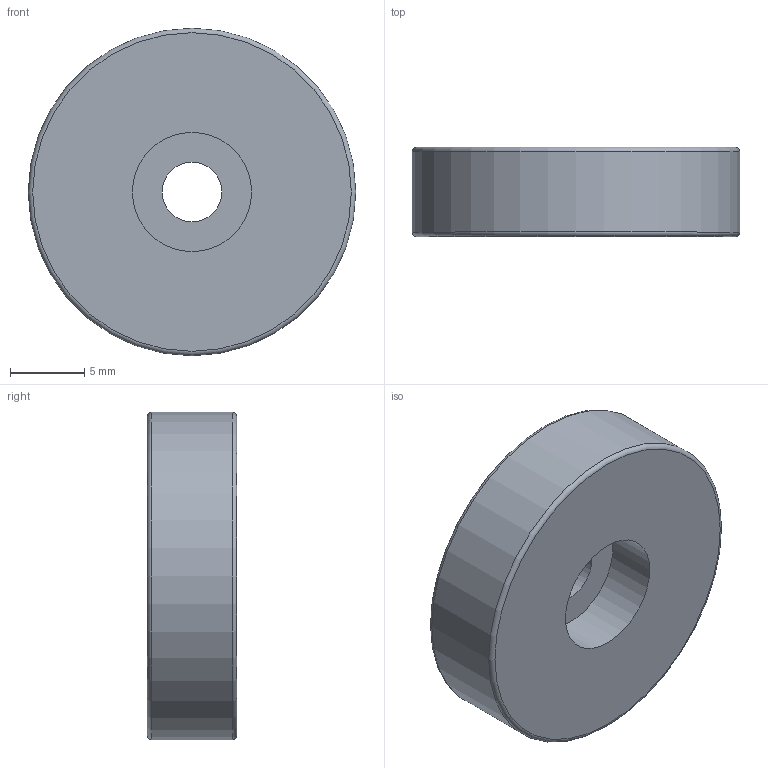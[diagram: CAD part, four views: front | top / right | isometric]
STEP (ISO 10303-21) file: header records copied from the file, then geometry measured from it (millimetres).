
FILE_DESCRIPTION( ( 'STEP AP203' ), '1' );
FILE_NAME( 'C:/Temp/Ganter_Step_05_03_2020/data/3_9/gn51_4/Retaining magnet GN 51.4-ND-22-SW.stp', '2020-03-10T07:42:01', ( 'License CC BY-ND 4.0' ), ( 'CADENAS' ), ' ', 'PARTsolutions', ' ' );
FILE_SCHEMA( ( 'CONFIG_CONTROL_DESIGN' ) );
Length unit declared in the file: millimetre
Products named in the file (1): _Retaining magnet GN 51.4-ND-22-SW
Bounding box: 22 x 6 x 22 mm (x, y, z)
Volume: 2033.1 mm3; surface area: 1263.9 mm2
Topology: 1 solids, 1 shells, 10 faces, 16 edges, 10 vertices
Faces by surface type: plane 4, cylinder 4, torus 2
Full cylindrical faces by diameter (mm): 4 x1, 8 x2, 22 x1
Entity records: 252 total; most frequent: DIRECTION 42, CARTESIAN_POINT 31, AXIS2_PLACEMENT_3D 21, EDGE_LOOP 20, ORIENTED_EDGE 20, FACE_OUTER_BOUND 16, ADVANCED_FACE 10, EDGE_CURVE 10
